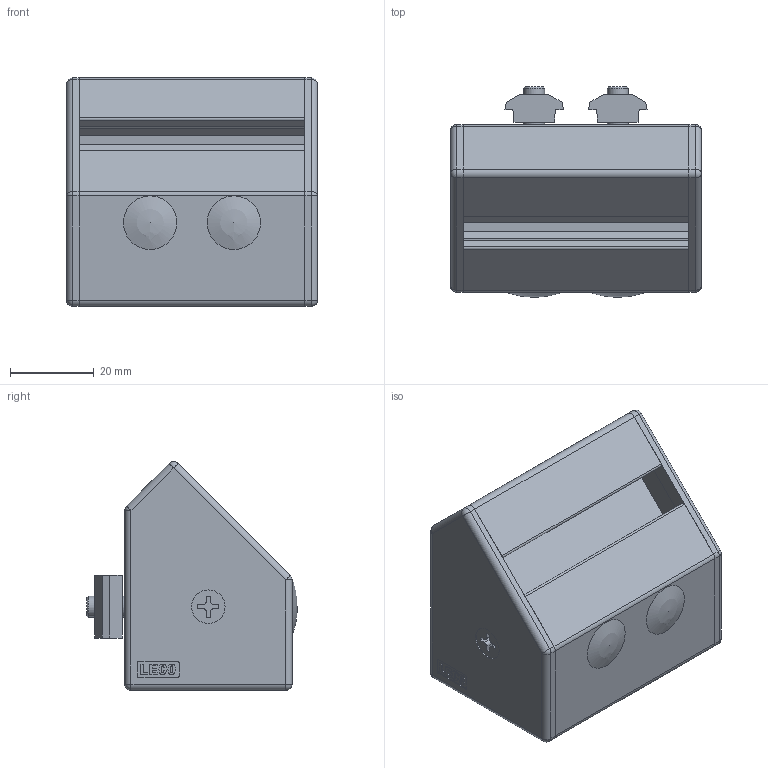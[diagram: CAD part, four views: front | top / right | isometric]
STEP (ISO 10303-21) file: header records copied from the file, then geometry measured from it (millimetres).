
FILE_DESCRIPTION(('STEP AP214'),'1');
FILE_NAME('PB4BA-L60.stp','2021-02-08T08:52:40',(' '),(' '),'Spatial InterOp 3D',' ',' ');
FILE_SCHEMA(('automotive_design'));
Length unit declared in the file: millimetre
Products named in the file (10): PB4BA-L60; PB4HA-60; M5×25CS; NF40-M5; CP10; E40A-R; E40A-L
Assembly tree (9 placements, depth 2):
  PB4BA-L60
    PB4HA-60
    M5×25CS
    NF40-M5
    CP10
    E40A-R
    E40A-L
    NF40-M5
    M5×25CS
    CP10
Bounding box: 60 x 50.38 x 54.66 mm (x, y, z)
Volume: 44713.1 mm3; surface area: 42431.1 mm2
Topology: 9 solids, 9 shells, 609 faces, 1591 edges, 998 vertices
Faces by surface type: plane 307, cylinder 222, bspline 40, sphere 24, torus 10, cone 6
Full cylindrical faces by diameter (mm): 5 x4, 5.1 x2, 7.2 x2, 8 x2, 8.5 x2, 10 x4, 10.2 x2
Entity records: 28766 total; most frequent: CARTESIAN_POINT 8812, DIRECTION 3161, ORIENTED_EDGE 3054, EDGE_CURVE 1527, AXIS2_PLACEMENT_3D 1099, VERTEX_POINT 988, LINE 963, VECTOR 963
